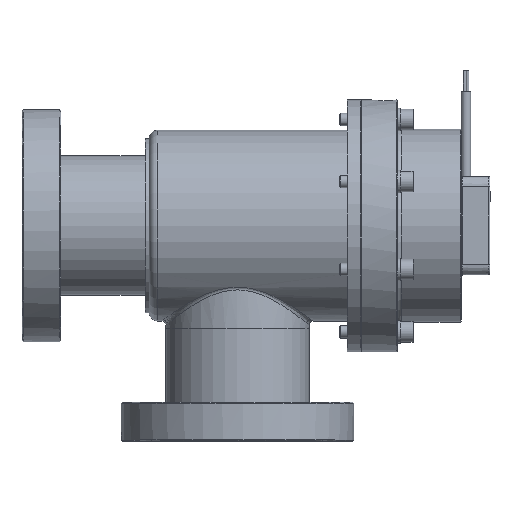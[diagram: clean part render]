
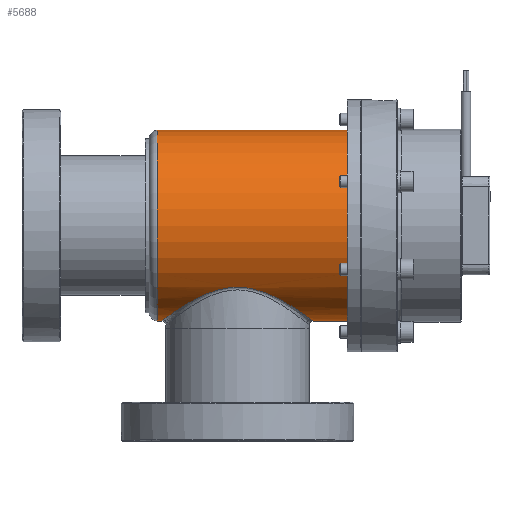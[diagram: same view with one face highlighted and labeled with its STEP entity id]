
A CAD part, top view. The second image highlights one B-rep face of the part: STEP entity #5688.
In plain terms, the highlighted cylindrical face has radius 46.5 mm (diameter 93 mm), a full revolution.
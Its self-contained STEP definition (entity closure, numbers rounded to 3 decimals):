
#2761=B_SPLINE_CURVE_WITH_KNOTS('',3,(#17939,#17940,#17941,#17942,#17943,
#17944,#17945,#17946,#17947,#17948,#17949,#17950,#17951,#17952,#17953,#17954,
#17955,#17956,#17957,#17958,#17959,#17960,#17961,#17962,#17963,#17964,#17965,
#17966,#17967,#17968,#17969,#17970,#17971,#17972,#17973,#17974,#17975,#17976,
#17977,#17978,#17979,#17980,#17981,#17982,#17983,#17984),.UNSPECIFIED.,.T.,
 .F.,(2,2,2,2,2,2,2,2,2,2,2,2,2,2,2,2,2,2,2,2,2,2,2,2,2),(-0.063,0.,0.063,
0.094,0.125,0.156,0.188,0.219,0.25,0.313,0.375,0.438,
0.5,0.531,0.563,0.625,0.656,0.688,0.719,0.75,0.813,0.875,0.938,
1.,1.063),.UNSPECIFIED.);
#4675=CYLINDRICAL_SURFACE('',#12335,46.5);
#5093=FACE_BOUND('',#6994,.T.);
#5094=FACE_BOUND('',#6995,.T.);
#5095=FACE_BOUND('',#6996,.T.);
#5688=ADVANCED_FACE('',(#5093,#5094,#5095),#4675,.T.);
#6994=EDGE_LOOP('',(#9122));
#6995=EDGE_LOOP('',(#9123));
#6996=EDGE_LOOP('',(#9124));
#9122=ORIENTED_EDGE('',*,*,#11049,.T.);
#9123=ORIENTED_EDGE('',*,*,#11050,.T.);
#9124=ORIENTED_EDGE('',*,*,#11051,.T.);
#9985=VERTEX_POINT('',#17938);
#9986=VERTEX_POINT('',#17985);
#9987=VERTEX_POINT('',#17987);
#11049=EDGE_CURVE('',#9985,#9985,#11472,.T.);
#11050=EDGE_CURVE('',#9986,#9986,#2761,.T.);
#11051=EDGE_CURVE('',#9987,#9987,#11473,.T.);
#11472=CIRCLE('',#12333,46.5);
#11473=CIRCLE('',#12334,46.5);
#12333=AXIS2_PLACEMENT_3D('',#17937,#14663,#14664);
#12334=AXIS2_PLACEMENT_3D('',#17986,#14665,#14666);
#12335=AXIS2_PLACEMENT_3D('',#17988,#14667,#14668);
#14663=DIRECTION('',(1.,0.,0.));
#14664=DIRECTION('',(0.,0.,-1.));
#14665=DIRECTION('',(-1.,0.,0.));
#14666=DIRECTION('',(0.,0.,1.));
#14667=DIRECTION('',(-1.,0.,0.));
#14668=DIRECTION('',(0.,0.,1.));
#17937=CARTESIAN_POINT('',(4.,0.,0.));
#17938=CARTESIAN_POINT('',(4.,0.,-46.5));
#17939=CARTESIAN_POINT('',(37.968,-30.064,35.474));
#17940=CARTESIAN_POINT('',(48.032,-30.064,35.474));
#17941=CARTESIAN_POINT('',(52.901,-31.3,34.474));
#17942=CARTESIAN_POINT('',(59.385,-33.868,31.885));
#17943=CARTESIAN_POINT('',(61.453,-34.849,30.826));
#17944=CARTESIAN_POINT('',(65.29,-36.853,28.4));
#17945=CARTESIAN_POINT('',(67.071,-37.881,27.031));
#17946=CARTESIAN_POINT('',(70.388,-39.898,23.955));
#17947=CARTESIAN_POINT('',(71.934,-40.896,22.227));
#17948=CARTESIAN_POINT('',(74.659,-42.712,18.5));
#17949=CARTESIAN_POINT('',(75.851,-43.536,16.494));
#17950=CARTESIAN_POINT('',(77.853,-44.945,12.143));
#17951=CARTESIAN_POINT('',(78.643,-45.514,9.827));
#17952=CARTESIAN_POINT('',(79.712,-46.288,5.049));
#17953=CARTESIAN_POINT('',(79.996,-46.497,2.53));
#17954=CARTESIAN_POINT('',(80.008,-46.506,-4.901));
#17955=CARTESIAN_POINT('',(78.892,-45.677,-9.844));
#17956=CARTESIAN_POINT('',(74.912,-42.875,-18.574));
#17957=CARTESIAN_POINT('',(72.101,-40.942,-22.354));
#17958=CARTESIAN_POINT('',(65.451,-36.893,-28.545));
#17959=CARTESIAN_POINT('',(61.575,-34.738,-31.007));
#17960=CARTESIAN_POINT('',(52.929,-31.308,-34.467));
#17961=CARTESIAN_POINT('',(48.026,-30.066,-35.472));
#17962=CARTESIAN_POINT('',(40.507,-30.063,-35.475));
#17963=CARTESIAN_POINT('',(38.066,-30.352,-35.235));
#17964=CARTESIAN_POINT('',(33.293,-31.392,-34.311));
#17965=CARTESIAN_POINT('',(30.979,-32.142,-33.625));
#17966=CARTESIAN_POINT('',(24.474,-34.713,-31.035));
#17967=CARTESIAN_POINT('',(20.607,-36.861,-28.585));
#17968=CARTESIAN_POINT('',(15.628,-39.888,-23.971));
#17969=CARTESIAN_POINT('',(14.08,-40.887,-22.244));
#17970=CARTESIAN_POINT('',(11.351,-42.705,-18.516));
#17971=CARTESIAN_POINT('',(10.157,-43.531,-16.509));
#17972=CARTESIAN_POINT('',(8.153,-44.941,-12.158));
#17973=CARTESIAN_POINT('',(7.361,-45.511,-9.84));
#17974=CARTESIAN_POINT('',(6.29,-46.287,-5.06));
#17975=CARTESIAN_POINT('',(6.004,-46.497,-2.539));
#17976=CARTESIAN_POINT('',(5.991,-46.506,4.897));
#17977=CARTESIAN_POINT('',(7.107,-45.677,9.843));
#17978=CARTESIAN_POINT('',(11.089,-42.874,18.577));
#17979=CARTESIAN_POINT('',(13.903,-40.939,22.359));
#17980=CARTESIAN_POINT('',(20.559,-36.887,28.553));
#17981=CARTESIAN_POINT('',(24.438,-34.732,31.014));
#17982=CARTESIAN_POINT('',(33.092,-31.302,34.473));
#17983=CARTESIAN_POINT('',(37.968,-30.064,35.474));
#17984=CARTESIAN_POINT('',(48.032,-30.064,35.474));
#17985=CARTESIAN_POINT('',(43.,-30.064,35.474));
#17986=CARTESIAN_POINT('',(98.6,0.,0.));
#17987=CARTESIAN_POINT('',(98.6,0.,46.5));
#17988=CARTESIAN_POINT('',(0.,0.,0.));
